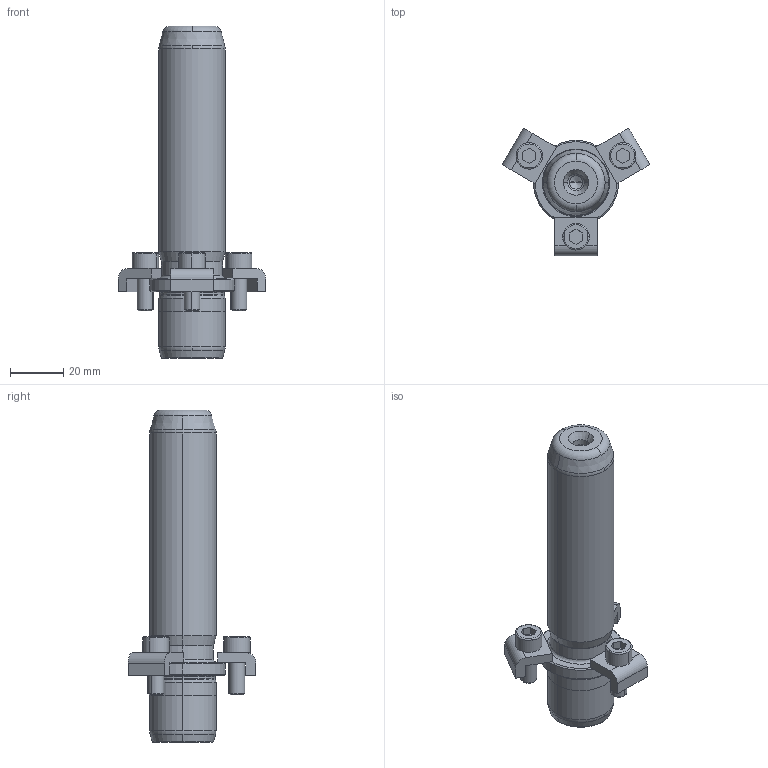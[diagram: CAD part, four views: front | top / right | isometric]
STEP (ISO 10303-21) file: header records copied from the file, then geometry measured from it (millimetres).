
FILE_DESCRIPTION((''),'2;1');
FILE_NAME('P21_025_100.stp','2008-12-23T09:41:45',(''),(''),'Mechanical Desktop 2009','Mechanical Desktop 2009',', , ');
FILE_SCHEMA(('CONFIG_CONTROL_DESIGN'));
Length unit declared in the file: millimetre
Products named in the file (2): Product; blmdl1
Assembly tree (1 placements, depth 2):
  Product
    blmdl1
Bounding box: 55.58 x 48.13 x 125 mm (x, y, z)
Volume: 65756.8 mm3; surface area: 16449.9 mm2
Topology: 7 solids, 7 shells, 163 faces, 417 edges, 269 vertices
Faces by surface type: plane 59, cylinder 44, cone 32, torus 14, bspline 14
Entity records: 5679 total; most frequent: CARTESIAN_POINT 1511, DIRECTION 914, ORIENTED_EDGE 826, EDGE_CURVE 413, AXIS2_PLACEMENT_3D 362, VERTEX_POINT 269, CIRCLE 211, VECTOR 190
